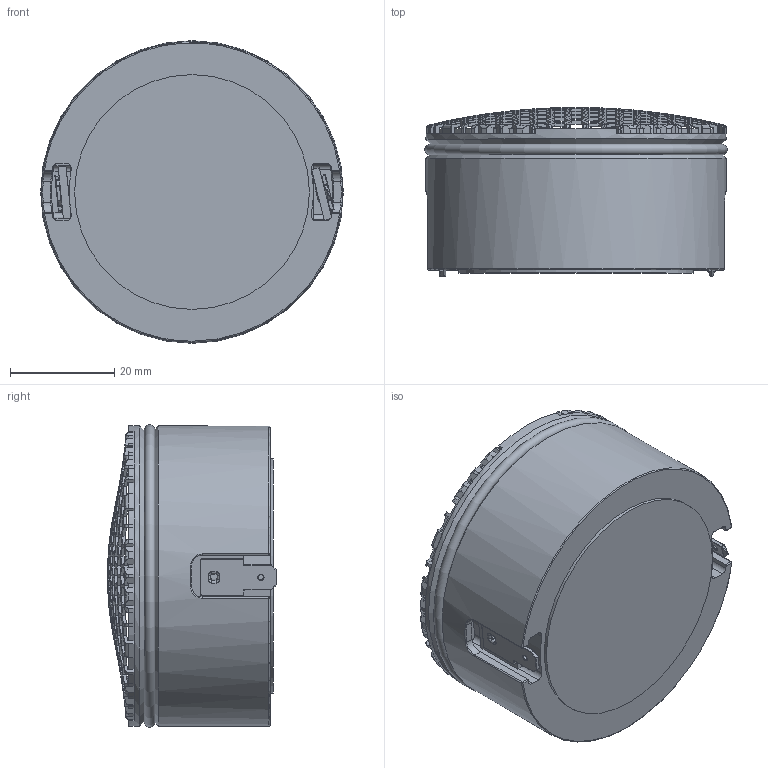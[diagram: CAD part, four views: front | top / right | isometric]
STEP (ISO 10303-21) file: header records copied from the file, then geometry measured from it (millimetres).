
FILE_DESCRIPTION (( 'STEP AP214' ), '1' );
FILE_NAME ('C025-06-158.STEP', '2024-06-21T14:50:04', ( '' ), ( '' ), 'SwSTEP 2.0', 'SolidWorks 2015', '' );
FILE_SCHEMA (( 'AUTOMOTIVE_DESIGN' ));
Length unit declared in the file: millimetre
Products named in the file (12): KRB1; TRM2; KLT1; C025-06-158; Sicke; Membrane; KLT3; KLT4; TRM1; GTR; KRB2; KLT2
Assembly tree (12 placements, depth 3):
  C025-06-158
    KRB1
    KRB2
    GTR
    TRM1
      KLT4
      KLT2
    TRM2
      KLT4
      KLT3
    KLT1
    Membrane
    Sicke
Bounding box: 58 x 32.41 x 58 mm (x, y, z)
Volume: 56830 mm3; surface area: 24080.9 mm2
Topology: 10 solids, 10 shells, 1787 faces, 5240 edges, 3420 vertices
Faces by surface type: plane 1351, cylinder 280, bspline 63, torus 62, sphere 22, cone 9
Full cylindrical faces by diameter (mm): 1 x2, 2 x2, 2.8 x2, 31.6 x1, 34.885 x1, 45 x2, 53.9 x1, 54.3 x1, 57.6 x2
Entity records: 89709 total; most frequent: CARTESIAN_POINT 28484, ORIENTED_EDGE 10334, DIRECTION 6021, EDGE_CURVE 5167, VERTEX_POINT 3398, B_SPLINE_CURVE_WITH_KNOTS 2964, EDGE_LOOP 2129, AXIS2_PLACEMENT_3D 2114
